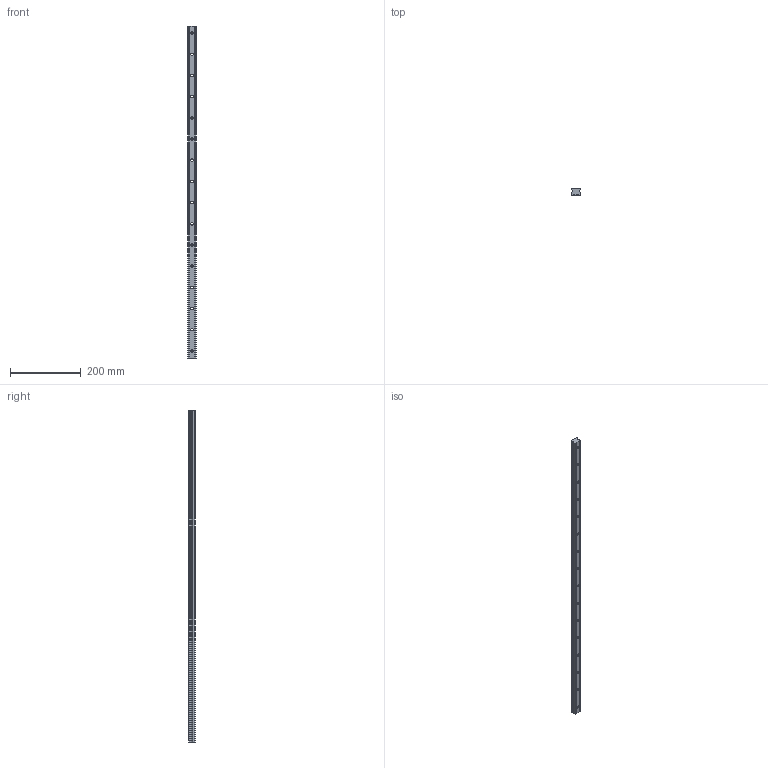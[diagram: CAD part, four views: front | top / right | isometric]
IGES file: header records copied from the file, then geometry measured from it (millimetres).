
Start section: SolidWorks IGES file using analytic representation for surfaces
Global section: file name: C:\Users\IanO\Desktop\L1016_v2\L1016.BL25_v2\L1016.BL25_v2_20160611_IGES\L1016.BL25-0940.igs; native system: SolidWorks 2017; preprocessor: SolidWorks 2017; author: IanO; date: 190612.130619; units: millimetre
Bounding box: 23 x 19.2 x 940 mm (x, y, z)
Surface area: 89567.7 mm2 (no closed solid volume)
Topology: 0 solids, 0 shells, 106 faces, 2472 edges, 2472 vertices
Faces by surface type: revolution 68, bspline 38
